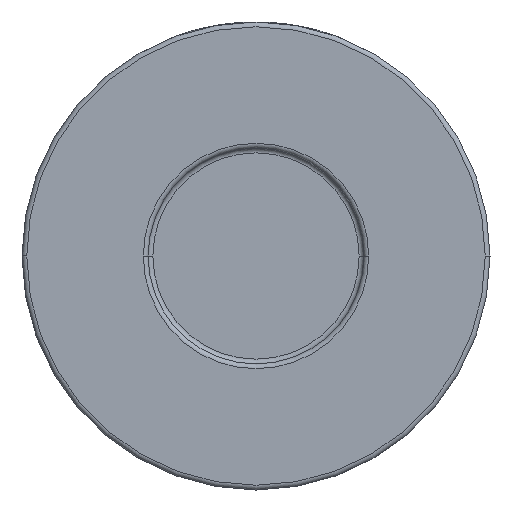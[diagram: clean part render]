
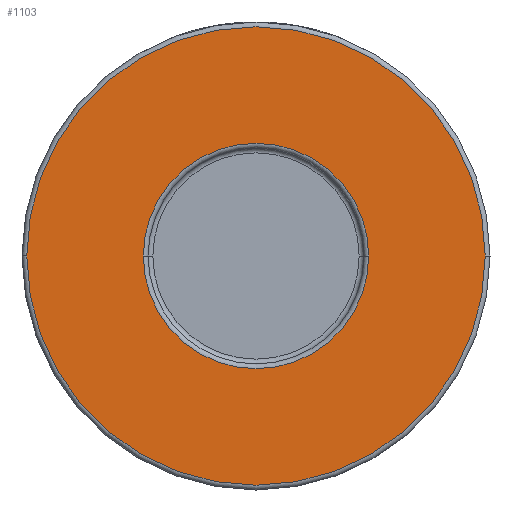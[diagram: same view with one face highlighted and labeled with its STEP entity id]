
A CAD part, front view. The second image highlights one B-rep face of the part: STEP entity #1103.
In plain terms, the highlighted planar face has unit normal (0, -1, 0).
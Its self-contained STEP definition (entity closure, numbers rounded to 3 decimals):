
#126 = AXIS2_PLACEMENT_3D ( 'NONE', #381, #4248, #1452 ) ;
#211 = CARTESIAN_POINT ( 'NONE',  ( -23.6, -30., 0. ) ) ;
#312 = DIRECTION ( 'NONE',  ( 0., -1., 0. ) ) ;
#381 = CARTESIAN_POINT ( 'NONE',  ( 0., -30., 0. ) ) ;
#407 = ORIENTED_EDGE ( 'NONE', *, *, #4530, .T. ) ;
#423 = CIRCLE ( 'NONE', #3611, 48. ) ;
#426 = DIRECTION ( 'NONE',  ( 1., 0., 0. ) ) ;
#523 = VERTEX_POINT ( 'NONE', #211 ) ;
#682 = CARTESIAN_POINT ( 'NONE',  ( -48., -30., 0. ) ) ;
#717 = DIRECTION ( 'NONE',  ( 1., 0., 0. ) ) ;
#782 = CARTESIAN_POINT ( 'NONE',  ( 49., -30., 0. ) ) ;
#798 = DIRECTION ( 'NONE',  ( 0., 1., 0. ) ) ;
#874 = AXIS2_PLACEMENT_3D ( 'NONE', #3602, #798, #426 ) ;
#1050 = DIRECTION ( 'NONE',  ( 0., 1., 0. ) ) ;
#1103 = ADVANCED_FACE ( 'NONE', ( #2470, #3164 ), #3885, .T. ) ;
#1339 = DIRECTION ( 'NONE',  ( 1., 0., 0. ) ) ;
#1423 = EDGE_CURVE ( 'NONE', #523, #2175, #1620, .T. ) ;
#1452 = DIRECTION ( 'NONE',  ( 1., 0., 0. ) ) ;
#1508 = EDGE_CURVE ( 'NONE', #2175, #523, #2429, .T. ) ;
#1620 = CIRCLE ( 'NONE', #1689, 23.6 ) ;
#1689 = AXIS2_PLACEMENT_3D ( 'NONE', #2778, #1050, #3181 ) ;
#1830 = AXIS2_PLACEMENT_3D ( 'NONE', #782, #3518, #717 ) ;
#2022 = EDGE_LOOP ( 'NONE', ( #2859, #3138 ) ) ;
#2175 = VERTEX_POINT ( 'NONE', #2402 ) ;
#2402 = CARTESIAN_POINT ( 'NONE',  ( 23.6, -30., 0. ) ) ;
#2429 = CIRCLE ( 'NONE', #874, 23.6 ) ;
#2470 = FACE_BOUND ( 'NONE', #2022, .T. ) ;
#2506 = CARTESIAN_POINT ( 'NONE',  ( 48., -30., 0. ) ) ;
#2778 = CARTESIAN_POINT ( 'NONE',  ( 0., -30., 0. ) ) ;
#2859 = ORIENTED_EDGE ( 'NONE', *, *, #1508, .T. ) ;
#3036 = CARTESIAN_POINT ( 'NONE',  ( 0., -30., 0. ) ) ;
#3138 = ORIENTED_EDGE ( 'NONE', *, *, #1423, .T. ) ;
#3164 = FACE_OUTER_BOUND ( 'NONE', #4271, .T. ) ;
#3181 = DIRECTION ( 'NONE',  ( 1., 0., 0. ) ) ;
#3223 = EDGE_CURVE ( 'NONE', #4107, #3722, #423, .T. ) ;
#3262 = ORIENTED_EDGE ( 'NONE', *, *, #3223, .T. ) ;
#3518 = DIRECTION ( 'NONE',  ( 0., -1., 0. ) ) ;
#3602 = CARTESIAN_POINT ( 'NONE',  ( 0., -30., 0. ) ) ;
#3611 = AXIS2_PLACEMENT_3D ( 'NONE', #3036, #312, #1339 ) ;
#3722 = VERTEX_POINT ( 'NONE', #682 ) ;
#3885 = PLANE ( 'NONE',  #1830 ) ;
#4107 = VERTEX_POINT ( 'NONE', #2506 ) ;
#4248 = DIRECTION ( 'NONE',  ( 0., -1., 0. ) ) ;
#4271 = EDGE_LOOP ( 'NONE', ( #3262, #407 ) ) ;
#4280 = CIRCLE ( 'NONE', #126, 48. ) ;
#4530 = EDGE_CURVE ( 'NONE', #3722, #4107, #4280, .T. ) ;
